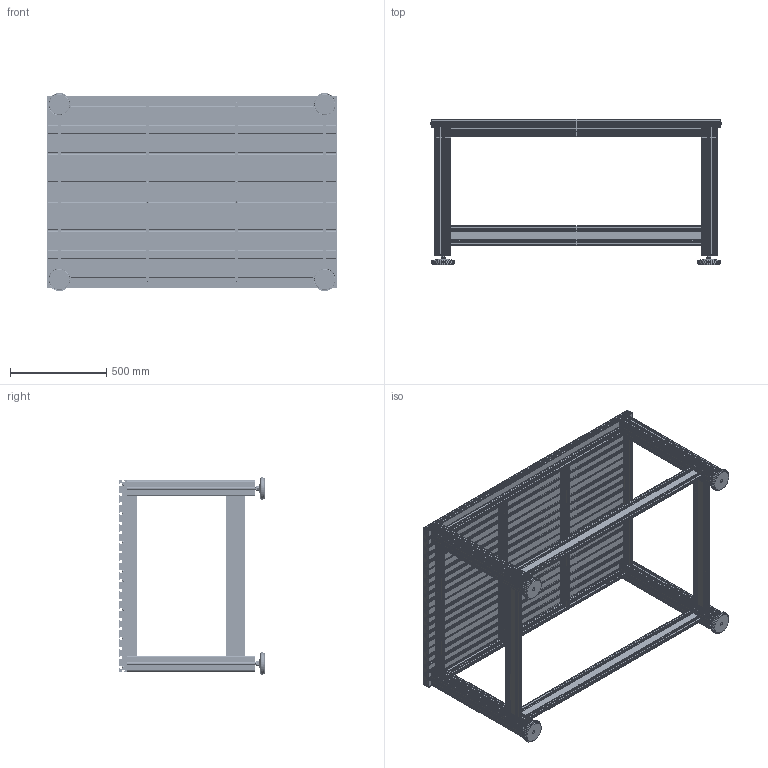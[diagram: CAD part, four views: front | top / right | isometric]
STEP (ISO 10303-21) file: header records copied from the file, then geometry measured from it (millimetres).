
FILE_DESCRIPTION (( 'STEP AP203' ), '1' );
FILE_NAME ('Arbeitstisch AT 3 - ArtNr 248550 0013.STEP', '2013-02-07T13:15:50', ( 'test' ), ( 'Microsoft' ), 'SwSTEP 2.0', 'SolidWorks 2012', '' );
FILE_SCHEMA (( 'CONFIG_CONTROL_DESIGN' ));
Products named in the file (1): Arbeitstisch AT 3 - ArtNr 248550 0013
Bounding box: 1510.4 x 755 x 1030 mm (x, y, z)
Volume: 27702617.6 mm3; surface area: 20834487.9 mm2
Topology: 98 solids, 98 shells, 6724 faces, 19622 edges, 12910 vertices
Faces by surface type: plane 4428, cylinder 2040, cone 164, torus 72, sphere 20
Full cylindrical faces by diameter (mm): 5.2 x32, 6 x24, 6.6 x56, 7 x28, 10 x4, 10.2 x16, 11 x136, 12 x4, 15.5 x8, 108 x4, 112 x4, 120 x4
Entity records: 230647 total; most frequent: CARTESIAN_POINT 52321, ORIENTED_EDGE 37780, DIRECTION 36122, EDGE_CURVE 18890, LINE 13180, VECTOR 13180, VERTEX_POINT 12686, AXIS2_PLACEMENT_3D 11471
